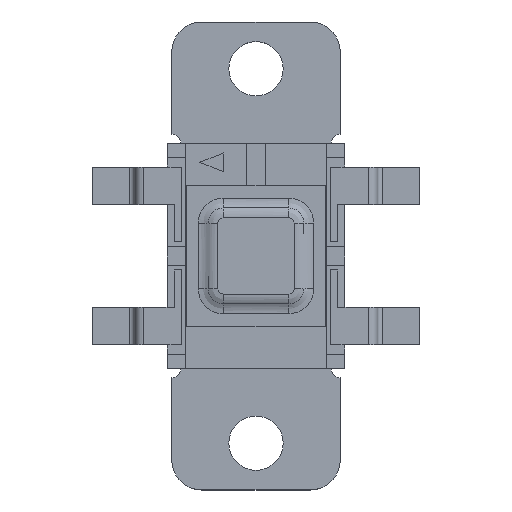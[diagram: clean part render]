
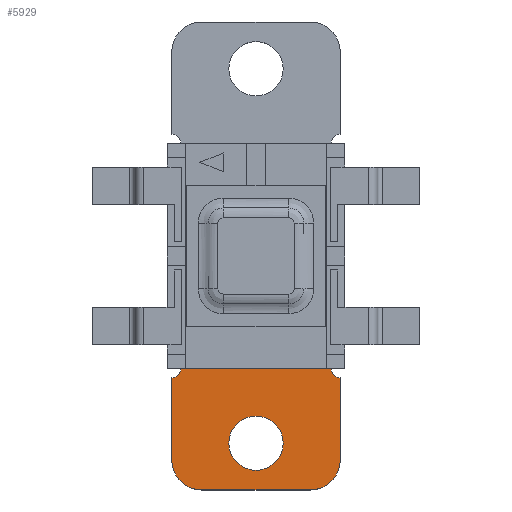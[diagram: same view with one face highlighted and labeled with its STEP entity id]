
A CAD part, top view. The second image highlights one B-rep face of the part: STEP entity #5929.
In plain terms, the highlighted planar face has unit normal (0, 0, 1).
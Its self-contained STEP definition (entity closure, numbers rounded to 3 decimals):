
#252 = CARTESIAN_POINT ( 'NONE',  ( 2.9, -10.9, 0.75 ) ) ;
#254 = VERTEX_POINT ( 'NONE', #4788 ) ;
#261 = ORIENTED_EDGE ( 'NONE', *, *, #1542, .F. ) ;
#266 = AXIS2_PLACEMENT_3D ( 'NONE', #3710, #1987, #1012 ) ;
#306 = CARTESIAN_POINT ( 'NONE',  ( -4.5, -6., 0.75 ) ) ;
#365 = EDGE_CURVE ( 'NONE', #4119, #3105, #3245, .T. ) ;
#447 = CARTESIAN_POINT ( 'NONE',  ( -2.9, -12.5, 0.75 ) ) ;
#568 = EDGE_LOOP ( 'NONE', ( #694, #3799, #1912, #3392, #1564, #4238, #261, #4149 ) ) ;
#594 = AXIS2_PLACEMENT_3D ( 'NONE', #306, #784, #4531 ) ;
#694 = ORIENTED_EDGE ( 'NONE', *, *, #958, .F. ) ;
#756 = ORIENTED_EDGE ( 'NONE', *, *, #4292, .T. ) ;
#784 = DIRECTION ( 'NONE',  ( 0., 0., -1. ) ) ;
#805 = EDGE_CURVE ( 'NONE', #4728, #254, #4794, .T. ) ;
#808 = CARTESIAN_POINT ( 'NONE',  ( 4., -6., 0.75 ) ) ;
#815 = FACE_BOUND ( 'NONE', #5103, .T. ) ;
#878 = DIRECTION ( 'NONE',  ( 1., 0., 0. ) ) ;
#920 = EDGE_CURVE ( 'NONE', #4288, #1514, #5902, .T. ) ;
#958 = EDGE_CURVE ( 'NONE', #1770, #4288, #1711, .T. ) ;
#1012 = DIRECTION ( 'NONE',  ( 1., 0., 0. ) ) ;
#1035 = CARTESIAN_POINT ( 'NONE',  ( 0., -10., 0.75 ) ) ;
#1117 = VECTOR ( 'NONE', #5316, 1000. ) ;
#1185 = EDGE_CURVE ( 'NONE', #4753, #4728, #5029, .T. ) ;
#1193 = DIRECTION ( 'NONE',  ( 1., 0., 0. ) ) ;
#1320 = DIRECTION ( 'NONE',  ( 0., 0., 1. ) ) ;
#1350 = CARTESIAN_POINT ( 'NONE',  ( 1.45, -10., 0.75 ) ) ;
#1426 = EDGE_CURVE ( 'NONE', #4682, #254, #2158, .T. ) ;
#1491 = LINE ( 'NONE', #5971, #3082 ) ;
#1514 = VERTEX_POINT ( 'NONE', #1738 ) ;
#1542 = EDGE_CURVE ( 'NONE', #1514, #4753, #1491, .T. ) ;
#1564 = ORIENTED_EDGE ( 'NONE', *, *, #805, .F. ) ;
#1689 = CARTESIAN_POINT ( 'NONE',  ( 4.5, -10.9, 0.75 ) ) ;
#1709 = ORIENTED_EDGE ( 'NONE', *, *, #365, .T. ) ;
#1711 = LINE ( 'NONE', #1689, #3838 ) ;
#1738 = CARTESIAN_POINT ( 'NONE',  ( 2.9, -12.5, 0.75 ) ) ;
#1770 = VERTEX_POINT ( 'NONE', #5077 ) ;
#1912 = ORIENTED_EDGE ( 'NONE', *, *, #5582, .T. ) ;
#1987 = DIRECTION ( 'NONE',  ( 0., 0., -1. ) ) ;
#2047 = CARTESIAN_POINT ( 'NONE',  ( -4.5, -6.5, 0.75 ) ) ;
#2158 = CIRCLE ( 'NONE', #594, 0.5 ) ;
#2395 = DIRECTION ( 'NONE',  ( 0., 0., -1. ) ) ;
#2830 = CARTESIAN_POINT ( 'NONE',  ( -4.5, -10.9, 0.75 ) ) ;
#2853 = VECTOR ( 'NONE', #4121, 1000. ) ;
#2926 = DIRECTION ( 'NONE',  ( -1., 0., 0. ) ) ;
#2964 = CARTESIAN_POINT ( 'NONE',  ( 4.5, -6., 0.75 ) ) ;
#3082 = VECTOR ( 'NONE', #5512, 1000. ) ;
#3105 = VERTEX_POINT ( 'NONE', #3932 ) ;
#3161 = CARTESIAN_POINT ( 'NONE',  ( 0., -6., 0.75 ) ) ;
#3191 = CIRCLE ( 'NONE', #3292, 1.45 ) ;
#3245 = CIRCLE ( 'NONE', #5962, 1.45 ) ;
#3292 = AXIS2_PLACEMENT_3D ( 'NONE', #5732, #2395, #3807 ) ;
#3392 = ORIENTED_EDGE ( 'NONE', *, *, #1426, .T. ) ;
#3478 = DIRECTION ( 'NONE',  ( 0., -1., 0. ) ) ;
#3632 = PLANE ( 'NONE',  #5872 ) ;
#3633 = CIRCLE ( 'NONE', #4838, 0.5 ) ;
#3636 = VERTEX_POINT ( 'NONE', #808 ) ;
#3710 = CARTESIAN_POINT ( 'NONE',  ( -2.9, -10.9, 0.75 ) ) ;
#3799 = ORIENTED_EDGE ( 'NONE', *, *, #5328, .T. ) ;
#3807 = DIRECTION ( 'NONE',  ( 1., 0., 0. ) ) ;
#3838 = VECTOR ( 'NONE', #3478, 1000. ) ;
#3932 = CARTESIAN_POINT ( 'NONE',  ( -1.45, -10., 0.75 ) ) ;
#4119 = VERTEX_POINT ( 'NONE', #1350 ) ;
#4121 = DIRECTION ( 'NONE',  ( -1., 0., 0. ) ) ;
#4149 = ORIENTED_EDGE ( 'NONE', *, *, #920, .F. ) ;
#4238 = ORIENTED_EDGE ( 'NONE', *, *, #1185, .F. ) ;
#4288 = VERTEX_POINT ( 'NONE', #5254 ) ;
#4292 = EDGE_CURVE ( 'NONE', #3105, #4119, #3191, .T. ) ;
#4402 = LINE ( 'NONE', #3161, #2853 ) ;
#4531 = DIRECTION ( 'NONE',  ( -1., 0., 0. ) ) ;
#4682 = VERTEX_POINT ( 'NONE', #5508 ) ;
#4728 = VERTEX_POINT ( 'NONE', #2830 ) ;
#4753 = VERTEX_POINT ( 'NONE', #447 ) ;
#4771 = FACE_OUTER_BOUND ( 'NONE', #568, .T. ) ;
#4788 = CARTESIAN_POINT ( 'NONE',  ( -4.5, -6.5, 0.75 ) ) ;
#4794 = LINE ( 'NONE', #2047, #1117 ) ;
#4838 = AXIS2_PLACEMENT_3D ( 'NONE', #2964, #5288, #2926 ) ;
#4864 = DIRECTION ( 'NONE',  ( 0., 0., -1. ) ) ;
#4884 = DIRECTION ( 'NONE',  ( 1., 0., 0. ) ) ;
#5029 = CIRCLE ( 'NONE', #266, 1.6 ) ;
#5077 = CARTESIAN_POINT ( 'NONE',  ( 4.5, -6.5, 0.75 ) ) ;
#5103 = EDGE_LOOP ( 'NONE', ( #1709, #756 ) ) ;
#5254 = CARTESIAN_POINT ( 'NONE',  ( 4.5, -10.9, 0.75 ) ) ;
#5288 = DIRECTION ( 'NONE',  ( 0., 0., -1. ) ) ;
#5316 = DIRECTION ( 'NONE',  ( 0., 1., 0. ) ) ;
#5328 = EDGE_CURVE ( 'NONE', #1770, #3636, #3633, .T. ) ;
#5508 = CARTESIAN_POINT ( 'NONE',  ( -4., -6., 0.75 ) ) ;
#5512 = DIRECTION ( 'NONE',  ( -1., 0., 0. ) ) ;
#5582 = EDGE_CURVE ( 'NONE', #3636, #4682, #4402, .T. ) ;
#5653 = AXIS2_PLACEMENT_3D ( 'NONE', #252, #5924, #1193 ) ;
#5732 = CARTESIAN_POINT ( 'NONE',  ( 0., -10., 0.75 ) ) ;
#5872 = AXIS2_PLACEMENT_3D ( 'NONE', #6024, #1320, #878 ) ;
#5902 = CIRCLE ( 'NONE', #5653, 1.6 ) ;
#5924 = DIRECTION ( 'NONE',  ( 0., 0., -1. ) ) ;
#5929 = ADVANCED_FACE ( 'NONE', ( #815, #4771 ), #3632, .T. ) ;
#5962 = AXIS2_PLACEMENT_3D ( 'NONE', #1035, #4864, #4884 ) ;
#5971 = CARTESIAN_POINT ( 'NONE',  ( -2.9, -12.5, 0.75 ) ) ;
#6024 = CARTESIAN_POINT ( 'NONE',  ( 0., 0., 0.75 ) ) ;
